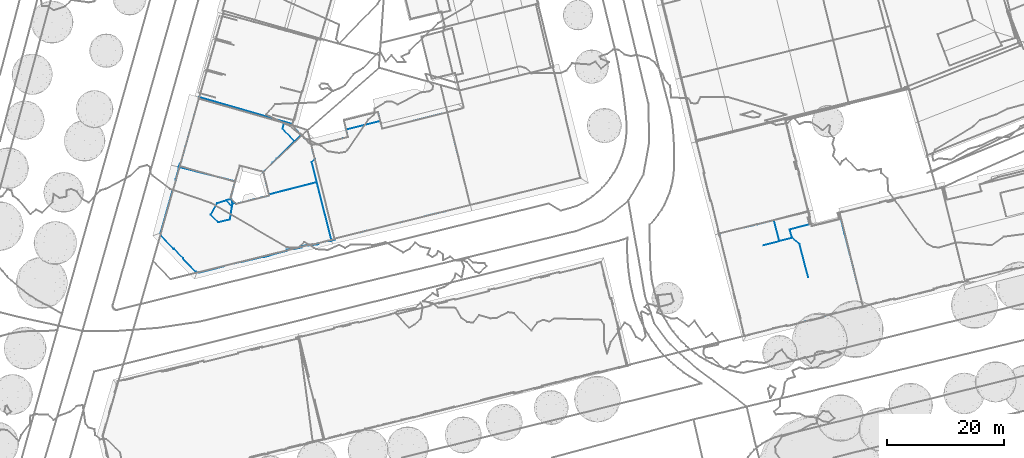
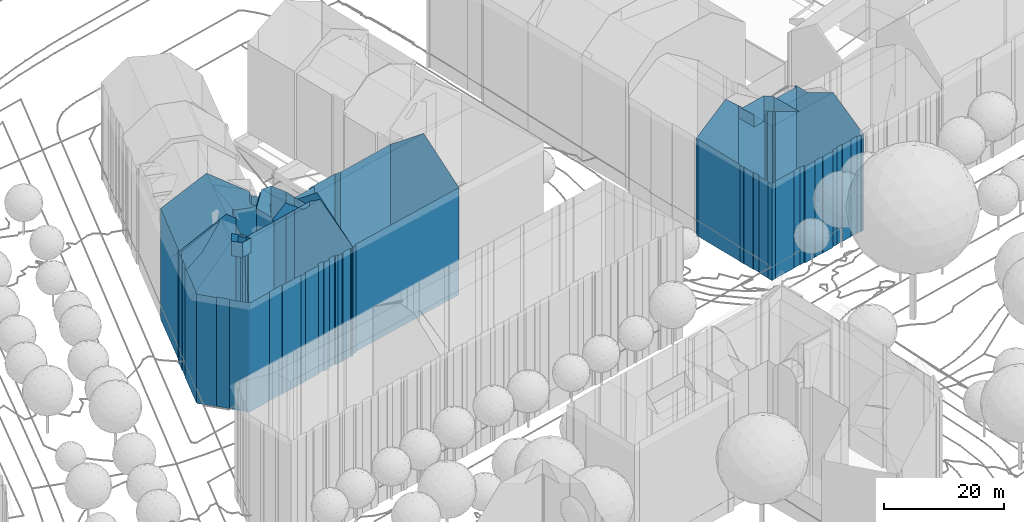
# Not in any storey, part 33 of 477: 4 walls.
"""IFC4 building model written with IfcOpenShell, lengths in metres."""

from ifc_helpers import new_model, si_unit, frame, origin_with_axes, place, context, subcontext, project, spatial, polygons, element, save


model = new_model("IFC4")

# Units and contexts
model_context = context("Model", 3, precision=1e-05, world=origin_with_axes())
body_context = subcontext(model_context, "Body", "Model", "MODEL_VIEW")
ifc_project = project(units=[si_unit("AREAUNIT", "SQUARE_METRE"), si_unit("LENGTHUNIT", "METRE")], contexts=[model_context])

# Sites, building
site_1_placement = place(None, origin_with_axes())
site_1 = spatial("IfcSite", under=ifc_project, at=site_1_placement, Name="Topoexport Site")
site_2_placement = place(site_1_placement, origin_with_axes())
site_2 = spatial("IfcSite", under=site_1, at=site_2_placement, Name="TPX_BUILDINGS")
building_1_placement = place(site_2_placement, frame((153.8417320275, 371.7576160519, 556.9797), z_axis=(0.0, 0.0, 1.0), x_axis=(1.0, 0.0, 0.0)))
building_1 = spatial("IfcBuilding", under=site_2, at=building_1_placement, Name="Building 166", CompositionType="ELEMENT")

# Wall
wall_1_placement = place(None, frame((153.8417320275, 371.7576160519, 556.9797), z_axis=(0.0, 0.0, 1.0), x_axis=(1.0, 0.0, 0.0)))
element("IfcWall", 1, at=wall_1_placement, inside=building_1, Name="Wall 0", context=body_context, shape_type="Tessellation", body=[
    polygons([(15.6259999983, 2.8643000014, -19.1582), (15.2799999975, 2.753899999, -19.1582), (15.6259999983, 2.8643000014, -0.527), (15.2799999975, 2.753899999, -0.527), (15.5419999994, 3.3594000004, -19.1582), (15.5040000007, 3.3447000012, -19.1582), (15.5419999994, 3.3594000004, -0.523), (15.5659999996, 1.6026000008, -0.536), (9.4459999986, 2.3213, -19.1582), (15.4069999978, 3.8672000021, -19.1582), (9.4459999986, 2.3213, -0.536), (12.5519999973, -0.7265000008, 1.6688), (13.8509999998, -1.8016999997, 1.6688), (12.5519999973, -0.7265000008, 4.7045), (15.3509999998, -7.5819999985, 4.7085), (13.8509999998, -1.8016999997, 4.7085), (15.743999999, -14.9169999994, -0.1331), (15.6919999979, -14.8691000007, -19.7052), (15.6919999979, -14.8691000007, -0.0931), (15.743999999, -14.9169999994, -9.9281), (15.743999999, -14.9169999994, -19.7052), (13.8819999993, -15.3779000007, -0.1181), (13.8819999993, -15.3779000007, -19.7052), (13.8709999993, -15.3808000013, -14.8047), (13.8709999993, -15.3808000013, -9.9111), (13.9019999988, -15.3125, -0.0791), (13.9019999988, -15.3125, -19.7052), (11.6699999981, -15.9179999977, -9.9621), (11.629999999, -15.7588, -6.4115), (11.629999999, -15.7588, 0.0029), (11.629999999, -15.7588, -14.7787), (11.629999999, -15.7588, -19.7052), (11.6699999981, -15.9179999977, -19.7052), (3.5769999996, 0.8720999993, -19.7052), (6.5949999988, 1.5811000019, -19.7052), (3.5769999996, 0.8720999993, 2.5607), (0.0390000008, -0.1591999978, -0.002), (0.0979999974, -0.4052999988, -0.005), (0.0979999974, -0.4052999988, -19.7052), (0.0, 0.0, 0.0), (0.0, 0.0001000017, -19.7052), (0.1779999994, -0.3896000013, -19.7052), (0.1779999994, -0.3896000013, 0.0509), (0.7769999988, -2.8310000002, 0.0239), (2.574000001, -10.1543000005, -0.0571), (2.574000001, -10.1543000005, -19.7052), (2.5119999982, -10.1688999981, -0.1011), (2.5119999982, -10.1688000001, -19.7052), (2.7280000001, -11.0429999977, -19.7052), (2.7280000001, -11.0428999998, -0.1101), (2.7879999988, -11.0282999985, -19.7052), (2.7879999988, -11.0282999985, -0.0671), (3.318, -13.1854999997, -19.7052), (3.318, -13.1854999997, -0.0901), (3.4010000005, -13.1611000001, -19.7052), (3.7430000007, -14.5077999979, -19.7052), (3.4010000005, -13.1611000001, -0.0301), (3.7430000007, -14.5077999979, -0.0371), (3.6499999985, -14.5399999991, -0.1051), (4.186999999, -16.7285000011, -19.7052), (4.186999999, -16.7285000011, -0.1301), (3.6499999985, -14.5399999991, -19.7052), (4.1380000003, -16.7412, -19.7052), (4.1380000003, -16.7412, -0.1651), (8.9199999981, 2.1757999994, -19.7052), (9.4499999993, 2.3037, -0.536), (8.9199999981, 2.1757999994, 2.4957), (9.4499999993, 2.3037, 1.9938), (9.4499999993, 2.3037, -19.7052), (9.4499999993, 2.3037, -19.1582), (6.5949999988, 1.5811000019, 4.7085), (9.3559999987, -16.3222999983, -19.7052), (5.2039999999, -17.3515000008, 0.0759), (9.3559999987, -16.3222000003, 0.0529), (5.2039999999, -17.3515000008, -19.7052), (9.3399999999, -16.2617000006, 0.0939), (9.3399999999, -16.2617000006, -19.7052), (10.693, -15.9287, 0.0849), (10.693, -15.9287, -19.7052), (10.7119999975, -15.9862999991, -9.8501), (10.7119999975, -15.9862999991, -19.7052), (5.2159999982, -17.4012999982, -14.7937), (5.2159999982, -17.4012999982, 0.0419), (5.2159999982, -17.4013999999, -19.7052), (20.5949999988, 2.7637000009, -19.7052), (20.5639999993, 2.8936000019, 1.6688), (20.5949999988, 2.7637000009, 1.6688), (20.6499999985, 2.7851999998, -19.7052), (20.6499999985, 2.7851999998, 1.6688), (20.7109999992, 2.5362000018, -19.7052), (20.7109999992, 2.5362000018, 1.6688), (16.0089999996, 1.3584000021, -19.7052), (16.0089999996, 1.3584000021, 1.6688), (15.9199999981, 1.6953000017, -19.7052), (15.9199999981, 1.6953000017, 1.6688), (20.5639999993, 2.8936000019, -19.7052), (20.8440000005, 2.9658000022, 1.6688), (23.0189999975, -5.5918000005, -19.7052), (23.1359999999, -6.0790999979, 4.3735), (23.0189999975, -5.5918000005, 4.6685), (24.3330000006, -12.6229999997, -19.7052), (24.3640000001, -12.7333999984, -0.1531), (24.3640000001, -12.7333999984, -19.7052), (24.3330000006, -12.6229999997, -14.7977), (23.1359999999, -6.0790999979, -19.7052), (24.7939999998, -12.6220999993, -19.7052), (24.7939999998, -12.6220999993, -0.1531), (18.9069999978, -13.9686999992, -0.0071), (18.8829999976, -13.8847000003, 0.0509), (18.9068999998, -13.9686999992, -19.7052), (18.8829999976, -13.8847000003, -19.7052), (20.1400000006, -13.5771000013, -19.7052), (20.1400000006, -13.5771000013, 0.0329), (20.1659999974, -13.6572000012, -0.0231), (20.1659999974, -13.6572000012, -19.7052), (22.0969999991, -13.1766999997, -19.7052), (22.0969999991, -13.1766999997, -0.0481), (22.0779999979, -13.1024999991, 0.0029), (22.0779999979, -13.1024999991, -19.7052), (23.436999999, -12.7606999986, -19.7052), (23.436999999, -12.7606999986, -0.0111), (23.4609999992, -12.8388999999, -4.9886), (23.4609999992, -12.8388999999, -19.7052), (17.9609999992, -14.3662, -6.2805), (17.9609999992, -14.3662, -0.1291), (17.9230000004, -14.2128999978, -19.7052), (17.9230000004, -14.2128999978, -0.0221), (17.9609999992, -14.3662, -19.7052), (17.9609999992, -14.3662, -14.8917), (10.381000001, -1.2910000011, 1.9938), (10.381000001, -1.2910000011, -19.7052), (12.5519999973, -0.7265000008, -0.536), (12.1769999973, 0.7177999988, 1.6688), (12.5519999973, -0.7265000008, -19.7052), (12.1769999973, 0.7177999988, -19.1582), (12.5519999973, -0.7265000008, -19.1582), (10.3819999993, -1.2910000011, -19.1582), (15.4349999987, 3.7608000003, -0.521), (15.4069999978, 3.8672000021, -0.521), (15.4349999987, 3.7608000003, -19.1582), (15.5020000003, 3.509800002, -0.522), (10.381000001, -1.2910000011, 4.6965), (7.5309999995, -2.0311999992, 4.7085), (10.3819999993, -1.2910000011, -0.536), (14.9120000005, -15.061499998, -0.0901), (14.9120000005, -15.061499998, -19.7052), (17.7139999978, -14.4266999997, -0.1461), (17.7139999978, -14.4266999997, -19.7052), (16.873999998, -14.6356999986, -19.7052), (16.873999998, -14.6356999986, -0.1331), (15.9250000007, -14.8720999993, -0.1331), (13.8709999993, -15.3808000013, -5.0146), (13.4289999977, -15.4891999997, -0.1141), (12.430999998, -15.7313999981, -0.1051), (12.430999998, -15.7313999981, -19.7052), (13.4289999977, -15.4891999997, -19.7052), (11.6699999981, -15.9179999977, -0.1081), (4.3519999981, -17.615199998, -19.7052), (4.3519999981, -17.615199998, -0.1741), (4.6579999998, -17.5390000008, 0.0459), (4.6579999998, -17.5390000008, -19.7052), (10.9639999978, -15.9237999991, -19.7052), (11.5789999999, -15.7714999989, 0.0029), (10.9639999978, -15.9237999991, 0.0429), (10.7119999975, -15.9862999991, 0.0449), (21.5390000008, 0.1933999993, 1.6688), (20.8440000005, 2.9658000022, -19.7052), (21.5390000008, 0.1933999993, -19.7052), (22.2689999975, -2.6387000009, -19.7052), (22.2689999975, -2.6387000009, 3.1566), (24.3330000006, -12.6229999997, -4.9836), (24.1449999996, -12.6699000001, -19.7052), (24.3330000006, -12.6229999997, -0.0761), (24.1449999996, -12.6699000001, -0.0751), (23.4609999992, -12.8387999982, -0.0661), (18.2859999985, -14.1229999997, 0.0009), (15.5659999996, 1.6015999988, 1.6688), (12.1769999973, 0.7177999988, -0.536), (15.5659999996, 1.6015999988, -19.7052), (12.1769999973, 0.7177999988, -19.7052), (15.5659999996, 1.6026000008, -19.1582), (15.5040000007, 3.3447000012, -0.523)], [[[3, 2, 1]], [[3, 4, 2]], [[7, 6, 5]], [[4, 8, 2]], [[11, 10, 9]], [[14, 13, 12]], [[16, 15, 13]], [[19, 18, 17]], [[20, 17, 18]], [[20, 18, 21]], [[24, 23, 22]], [[22, 25, 24]], [[23, 27, 26]], [[30, 29, 28]], [[31, 28, 29]], [[31, 32, 28]], [[28, 32, 33]], [[36, 35, 34]], [[39, 38, 37]], [[41, 37, 40]], [[39, 37, 41]], [[43, 39, 42]], [[42, 45, 44]], [[46, 45, 42]], [[48, 47, 45]], [[45, 46, 48]], [[50, 48, 49]], [[50, 49, 51]], [[53, 52, 51]], [[53, 54, 52]], [[54, 53, 55]], [[58, 57, 56]], [[57, 55, 56]], [[58, 56, 59]], [[61, 59, 60]], [[59, 62, 60]], [[64, 61, 63]], [[41, 40, 36]], [[34, 41, 36]], [[67, 66, 65]], [[66, 67, 68]], [[70, 69, 65]], [[71, 67, 35]], [[74, 73, 72]], [[73, 75, 72]], [[72, 77, 76]], [[76, 77, 78]], [[78, 77, 79]], [[81, 80, 79]], [[78, 79, 80]], [[75, 83, 82]], [[75, 73, 83]], [[82, 84, 75]], [[87, 86, 85]], [[89, 87, 88]], [[91, 89, 90]], [[93, 91, 92]], [[95, 93, 94]], [[86, 97, 96]], [[100, 99, 98]], [[103, 102, 101]], [[102, 104, 101]], [[99, 106, 105]], [[107, 106, 99]], [[110, 109, 108]], [[109, 110, 111]], [[113, 111, 112]], [[112, 115, 114]], [[117, 115, 116]], [[119, 118, 116]], [[118, 117, 116]], [[121, 119, 120]], [[121, 118, 119]], [[123, 122, 120]], [[121, 120, 122]], [[126, 125, 124]], [[127, 125, 126]], [[129, 128, 126]], [[66, 9, 70]], [[68, 130, 66]], [[70, 131, 69]], [[12, 133, 132]], [[136, 135, 134]], [[137, 134, 131]], [[139, 138, 10]], [[138, 140, 10]], [[140, 138, 141]], [[140, 141, 7]], [[7, 5, 140]], [[143, 142, 130]], [[130, 142, 14]], [[12, 144, 130]], [[132, 144, 12]], [[12, 130, 14]], [[146, 18, 145]], [[18, 19, 145]], [[145, 26, 27]], [[146, 145, 27]], [[124, 125, 147]], [[128, 129, 148]], [[129, 149, 148]], [[124, 149, 129]], [[150, 124, 147]], [[150, 151, 20]], [[17, 20, 151]], [[21, 149, 20]], [[124, 20, 149]], [[20, 124, 150]], [[22, 153, 152]], [[25, 152, 154]], [[25, 155, 24]], [[23, 24, 156]], [[153, 154, 152]], [[154, 157, 28]], [[24, 155, 156]], [[28, 33, 155]], [[28, 155, 25]], [[25, 154, 28]], [[159, 63, 158]], [[63, 159, 64]], [[160, 159, 83]], [[82, 83, 159]], [[161, 84, 82]], [[158, 161, 82]], [[82, 159, 158]], [[162, 31, 29]], [[162, 32, 31]], [[29, 30, 163]], [[29, 164, 80]], [[80, 164, 165]], [[81, 162, 80]], [[162, 29, 80]], [[29, 163, 164]], [[168, 167, 166]], [[166, 169, 168]], [[170, 100, 98]], [[98, 169, 170]], [[170, 169, 166]], [[123, 104, 171]], [[101, 104, 172]], [[174, 171, 173]], [[174, 175, 122]], [[122, 123, 171]], [[104, 123, 172]], [[171, 174, 122]], [[110, 108, 176]], [[126, 110, 127]], [[110, 176, 127]], [[178, 133, 177]], [[180, 135, 179]], [[178, 177, 8]], [[181, 8, 95]], [[95, 8, 177]], [[181, 94, 179]], [[181, 95, 94]], [[182, 1, 6]], [[1, 182, 3]], [[182, 6, 7]], [[2, 8, 181]], [[139, 10, 11]], [[16, 13, 14]], [[25, 22, 152]], [[22, 23, 26]], [[30, 28, 157]], [[71, 35, 36]], [[38, 39, 43]], [[42, 44, 43]], [[47, 48, 50]], [[52, 50, 51]], [[57, 54, 55]], [[62, 59, 56]], [[61, 60, 63]], [[66, 70, 65]], [[67, 65, 35]], [[74, 72, 76]], [[165, 78, 80]], [[86, 96, 85]], [[87, 85, 88]], [[89, 88, 90]], [[91, 90, 92]], [[93, 92, 94]], [[97, 167, 96]], [[99, 105, 98]], [[102, 173, 171]], [[171, 104, 102]], [[106, 107, 103]], [[102, 103, 107]], [[109, 111, 113]], [[113, 112, 114]], [[114, 115, 117]], [[121, 122, 175]], [[124, 129, 126]], [[11, 9, 66]], [[130, 144, 66]], [[137, 131, 70]], [[133, 178, 132]], [[135, 180, 134]], [[136, 134, 137]], [[167, 97, 166]], [[135, 181, 179]]]),
])

# Building
building_2_placement = place(site_2_placement, frame((57.9967320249, 371.6443160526, 536.9447), z_axis=(0.0, 0.0, 1.0), x_axis=(1.0, 0.0, 0.0)))
building_2 = spatial("IfcBuilding", under=site_2, at=building_2_placement, Name="Building 212", CompositionType="ELEMENT")

# Wall
wall_2_placement = place(None, frame((57.9967320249, 371.6443160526, 536.9447), z_axis=(0.0, 0.0, 1.0), x_axis=(1.0, 0.0, 0.0)))
element("IfcWall", 2, at=wall_2_placement, inside=building_2, Name="Wall 0", context=body_context, shape_type="Tessellation", body=[
    polygons([(12.2110000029, 5.9814999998, -0.0001), (12.3510000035, 5.2305000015, 26.0615), (12.2110000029, 5.9814999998, 26.3844), (12.3510000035, 5.2305000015, 26.3844), (12.2690000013, 4.7159000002, 24.7896), (11.3289999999, 5.8291000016, 26.3844), (12.2690000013, 4.7159000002, 26.3864), (24.1640000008, 17.1083999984, 18.8751), (24.2860000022, 16.9844000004, 25.1216), (24.1640000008, 17.1083999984, 25.1665), (24.2860000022, 16.9844000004, 18.8302), (24.1640000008, 17.1083999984, 0.0), (24.2860000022, 16.9844000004, 6.2474), (24.2860000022, 16.9844000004, 0.0), (26.5090000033, 12.8779999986, -0.0001), (25.9670000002, 12.4228999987, -0.0001), (26.5090000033, 12.8779999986, 24.4796), (17.6710000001, 10.6992999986, -0.0001), (17.6480000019, 10.7050999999, 26.8104), (17.6710000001, 10.6992999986, 13.4117), (17.6480000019, 10.7050999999, -0.0001), (17.6480000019, 10.7050999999, 6.6933), (28.8460000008, -1.1064000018, 21.9928), (28.9420000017, -1.2010999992, -0.0001), (28.8460000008, -1.1064000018, 10.9959), (29.0520000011, -1.2138000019, -0.0001), (29.0520000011, -1.2138000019, 21.8768), (28.9420000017, -1.2010999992, 21.9058), (29.2050000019, -1.1737999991, -0.0001), (29.193, -1.1240000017, 21.9158), (29.193, -1.1240000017, -0.0001), (29.2050000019, -1.1737999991, 21.8778), (29.2978000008, -1.0976999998, 21.9158), (29.3718000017, -1.0800999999, 10.9579), (29.3720000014, -1.0800000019, -0.0001), (6.4150000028, -6.6141999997, -0.0001), (6.2920000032, -6.5879000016, -0.0001), (6.4150000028, -6.6141999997, 22.1078), (18.7190000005, -3.6787, 21.9818), (17.7860000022, -3.9061999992, -0.0001), (17.7860000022, -3.9061999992, 21.9878), (18.700000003, -3.6004999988, -0.0001), (18.700000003, -3.6004999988, 22.0428), (18.7190000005, -3.6787, -0.0001), (21.6910000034, -2.8680999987, 22.0248), (21.6910000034, -2.8680999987, -0.0001), (21.6490000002, -2.6766999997, -0.0001), (22.9230000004, -2.371100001, -0.0001), (21.6490000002, -2.6766999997, 22.1728), (22.9230000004, -2.371100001, 22.1608), (22.9730000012, -2.5555999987, 22.0168), (22.9730000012, -2.5555999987, -0.0001), (24.1920000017, -2.2578000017, 22.0098), (24.1920000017, -2.2578000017, -0.0001), (24.1520000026, -2.0791000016, -0.0001), (24.1520000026, -2.0791000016, 22.1478), (25.4200000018, -1.7694999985, -0.0001), (25.4200000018, -1.7694999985, 22.1398), (25.4640000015, -1.9453000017, 22.0028), (25.4640000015, -1.9453000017, -0.0001), (26.0200000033, -1.8095000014, -0.0001), (26.0200000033, -1.8095000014, 21.9998), (26.0430000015, -1.9013000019, 21.9288), (26.0430000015, -1.9013000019, -0.0001), (26.876000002, -1.6953000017, 21.9258), (26.876000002, -1.6953000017, -0.0001), (26.8880000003, -1.7430999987, -0.0001), (26.8880000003, -1.7430999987, 21.8888), (27.068, -1.6904000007, 21.8938), (27.068, -1.6904000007, -0.0001), (27.1150000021, -1.6435000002, 21.9198), (27.1510000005, -1.5243999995, 21.9998), (27.1510000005, -1.5243999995, 9.625), (27.1510000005, -1.5243999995, -0.0001), (27.1150000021, -1.6435000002, -0.0001), (6.4491000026, -6.6229999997, -0.0001), (6.5460000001, -6.6103000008, -0.0001), (6.449000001, -6.6229999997, 22.0958), (6.5460000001, -6.6103000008, 22.0868), (7.6240000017, -6.3398000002, 22.0858), (10.6600000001, -5.5742000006, -0.0001), (10.6600000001, -5.5742000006, 22.0838), (10.7359000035, -5.5419999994, 22.0938), (10.7360000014, -5.5419000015, -0.0001), (10.8060000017, -5.4765000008, -0.0001), (10.8060000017, -5.4765000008, 22.1288), (13.6530000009, -4.7685000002, 22.1208), (13.6530000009, -4.7685000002, -0.0001), (13.7200000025, -4.7928999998, 22.0908), (13.7200000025, -4.7928999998, -0.0001), (13.8270000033, -4.7928999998, 22.0708), (13.8270000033, -4.7928999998, -0.0001), (17.7670000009, -3.8291000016, 22.0478), (17.7670000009, -3.8291000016, -0.0001), (12.9810000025, 5.2120000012, 26.2124), (12.8380000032, 5.3555000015, 26.0855), (12.9810000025, 5.2120000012, -0.0001), (12.3510000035, 5.2305000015, -0.0001), (12.8380000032, 5.3555000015, -0.0001), (12.819000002, 9.0615999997, 0.0), (12.7980000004, 8.9912, 0.0), (12.819000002, 9.0615999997, 13.0677), (12.8191, 9.0615000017, 26.1405), (12.7971000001, 8.9882999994, 26.1455), (6.131000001, -6.4824000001, 5.5344), (6.1330000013, -6.4833999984, 22.1528), (6.188000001, -6.5293000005, -0.0001), (6.0970000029, -6.4541000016, 22.1508), (6.0970000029, -6.4541000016, -0.0001), (2.2930000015, -2.5439000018, -0.0001), (2.2930000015, -2.5439000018, 22.1358), (2.3590000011, -2.4803999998, -0.0001), (3.9330000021, -4.1240000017, 22.1898), (3.9330000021, -4.1240000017, -0.0001), (3.8720000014, -4.191399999, -0.0001), (3.8720000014, -4.191399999, 22.1308), (4.5670000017, -4.8984000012, 8.2921), (5.3060000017, -5.6484000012, 22.1428), (5.5410000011, -5.8885999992, 8.3011), (4.9850000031, -5.3222000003, 5.5274), (4.4280000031, -4.7578000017, 22.1358), (0.0100000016, 0.1699999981, 22.2938), (0.0, 0.0, 22.2128), (0.0, 0.0, 0.0), (0.0101000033, 0.1699999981, 16.7204), (0.0101000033, 0.1699999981, 11.1469), (0.0100000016, 0.1689999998, 0.0), (0.0100000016, 0.1699999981, 5.5734), (0.0540000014, -0.1523000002, 22.1688), (0.0540000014, -0.1523000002, 0.0), (0.1380000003, -0.2675000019, 22.1558), (0.1380000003, -0.2675000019, 0.0), (1.2150000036, -1.4043000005, 22.1458), (3.1611000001, 11.5390999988, 22.5048), (3.1020000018, 11.309700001, 0.0), (3.1611000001, 11.5390999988, 16.8784), (3.1610000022, 11.5390999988, 0.0), (3.1570000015, 11.2930000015, 22.5468), (3.1570000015, 11.2930000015, 11.2729), (3.1020000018, 11.3095999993, 22.5058), (3.1570000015, 11.2930000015, 5.6364), (3.1570000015, 11.2930999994, 0.0), (2.2030000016, 7.6963, 22.5268), (2.1290000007, 7.6152999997, 22.4898), (2.1290000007, 7.6152999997, 0.0), (2.2030000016, 7.6963, 0.0), (2.0930000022, 7.5390999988, 22.4778), (2.0930000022, 7.5392000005, 16.8553), (2.6432000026, 9.4814999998, 22.5148), (2.637000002, 9.3847999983, 0.0), (2.6431000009, 9.4814999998, 16.8833), (2.6431000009, 9.4814999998, 11.2509), (2.6590000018, 9.3027999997, 0.0), (2.637000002, 9.3847999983, 22.5278), (12.1180000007, 6.0742999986, 26.1115), (12.1180000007, 6.0742999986, 26.3844), (11.7240000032, 5.9521999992, 26.3844), (9.9340000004, 2.0507999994, 24.7896), (11.9160000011, 2.5518000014, 27.7683), (9.9340000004, 2.0507999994, 27.7683), (11.9160000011, 2.5518000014, 24.7896), (9.7270000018, 5.3339999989, 24.7896), (8.6410000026, 3.3907000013, 27.7683), (9.7270000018, 5.3339999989, 27.7683), (8.6410000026, 3.3907000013, 24.7896), (12.007000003, 6.1856000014, -0.0001), (12.007000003, 6.1856000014, 26.2164), (24.9530000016, 16.2842000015, 24.8816), (25.6150000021, 15.5909000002, 24.6396), (25.9170000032, 15.2745000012, 24.5296), (25.9170000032, 15.2745000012, -0.0001), (25.6150000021, 15.5909000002, -0.0001), (24.9530000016, 16.2842000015, -0.0001), (26.1160000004, 14.4688000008, -0.0001), (26.1160000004, 14.4688000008, 24.5856), (23.007000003, 15.9726999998, 0.0), (17.6480000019, 10.7050999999, 13.3987), (19.9760000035, 12.9941999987, -0.0001), (19.9760000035, 12.9941999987, 28.5112), (23.007000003, 15.9726999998, 26.0905), (26.8340000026, 8.9472999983, -0.0001), (25.9670000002, 12.4228999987, 25.1105), (26.8340000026, 8.9472999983, 25.1105), (27.2670000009, 7.2217000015, 27.2483), (26.8340000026, 8.9472999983, 26.0614), (27.2670000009, 7.2217000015, -0.0001), (28.006000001, -1.3134000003, 21.9958), (28.006000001, -1.3134000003, -0.0001), (28.8460000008, -1.1064000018, -0.0001), (29.3720000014, -1.0800000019, 21.9158), (27.4590000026, 6.4677999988, 27.7683), (27.4590000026, 6.4677999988, -0.0001), (6.188000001, -6.5293000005, 22.1578), (6.2920000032, -6.5879000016, 22.1498), (6.2540000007, -6.566399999, 22.1728), (12.6400000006, 8.4307000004, 26.1735), (11.1620000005, 9.4853999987, 27.2084), (10.2950000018, 9.7071000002, 27.7683), (10.3950000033, 9.6816999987, 0.0), (2.0930000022, 7.5390999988, 0.0), (0.0340000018, 0.253899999, 22.3428), (2.9260000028, 10.4776000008, 0.0), (2.643000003, 9.4814999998, 0.0), (2.9260000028, 10.4776000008, 22.5348), (21.387000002, 7.5507999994, 28.5112), (24.3900000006, 8.3213, 26.0615), (18.6359999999, 6.8447999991, 26.0615), (18.6359999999, 6.8447999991, 26.7254), (24.7370000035, 8.4101999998, 25.7785), (25.444000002, 8.5918000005, 25.1105), (11.3289999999, 5.8291000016, 26.6584), (11.3289999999, 5.8291000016, 24.7896), (18.689000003, 6.6347999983, -0.0001), (18.6760000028, 6.6845999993, 26.1714), (18.689000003, 6.6347999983, 26.2064), (18.6770000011, 6.6827000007, -0.0001), (17.9580000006, 9.5546999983, -0.0001), (17.9580000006, 9.5546999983, 26.8174), (17.6710000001, 10.6992999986, 26.8234), (13.8440000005, 5.4277999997, -0.0001), (16.1700000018, 6.0069000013, 26.2724), (13.8440000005, 5.4277999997, 26.2604), (16.1700000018, 6.0069000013, -0.0001), (17.5560000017, 6.3526000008, 26.2044), (17.5560000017, 6.3526000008, -0.0001), (2.3590000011, -2.4803999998, 22.1958), (2.6590000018, 9.3027999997, 22.5578)], [[[3, 2, 1]], [[4, 2, 3]], [[7, 6, 5]], [[10, 9, 8]], [[13, 12, 11]], [[12, 13, 14]], [[17, 16, 15]], [[20, 19, 18]], [[22, 21, 18]], [[25, 24, 23]], [[27, 24, 26]], [[24, 27, 28]], [[29, 27, 26]], [[31, 30, 29]], [[30, 32, 29]], [[35, 34, 33]], [[30, 31, 33]], [[33, 31, 35]], [[38, 37, 36]], [[41, 40, 39]], [[43, 39, 42]], [[42, 39, 44]], [[42, 46, 45]], [[47, 45, 46]], [[50, 49, 48]], [[49, 47, 48]], [[48, 52, 51]], [[54, 53, 51]], [[51, 52, 54]], [[56, 54, 55]], [[58, 55, 57]], [[58, 56, 55]], [[60, 59, 58]], [[58, 57, 60]], [[61, 59, 60]], [[61, 63, 62]], [[66, 65, 64]], [[67, 65, 66]], [[70, 69, 68]], [[68, 67, 70]], [[71, 69, 70]], [[71, 73, 72]], [[71, 75, 74]], [[76, 38, 36]], [[79, 78, 77]], [[77, 78, 76]], [[81, 80, 77]], [[81, 82, 80]], [[80, 79, 77]], [[82, 81, 83]], [[84, 83, 81]], [[86, 83, 85]], [[83, 84, 85]], [[88, 87, 85]], [[87, 88, 89]], [[89, 88, 90]], [[92, 91, 90]], [[91, 89, 90]], [[94, 93, 92]], [[93, 94, 40]], [[97, 96, 95]], [[2, 99, 98]], [[99, 2, 96]], [[102, 101, 100]], [[104, 101, 103]], [[107, 106, 105]], [[106, 108, 105]], [[108, 109, 105]], [[105, 109, 107]], [[112, 111, 110]], [[114, 113, 112]], [[116, 114, 115]], [[116, 113, 114]], [[119, 118, 117]], [[119, 117, 120]], [[119, 108, 118]], [[108, 119, 109]], [[109, 119, 120]], [[121, 116, 117]], [[120, 117, 115]], [[116, 115, 117]], [[120, 115, 109]], [[124, 123, 122]], [[126, 124, 125]], [[128, 127, 124]], [[130, 129, 124]], [[123, 124, 129]], [[132, 131, 129]], [[129, 130, 132]], [[133, 132, 111]], [[110, 111, 132]], [[132, 133, 131]], [[136, 135, 134]], [[136, 137, 135]], [[140, 139, 138]], [[139, 140, 141]], [[142, 141, 140]], [[145, 144, 143]], [[143, 146, 145]], [[147, 144, 145]], [[145, 148, 147]], [[151, 150, 149]], [[152, 150, 151]], [[154, 150, 153]], [[146, 143, 153]], [[157, 156, 155]], [[4, 7, 2]], [[160, 159, 158]], [[159, 7, 161]], [[164, 163, 162]], [[163, 160, 165]], [[166, 155, 1]], [[155, 166, 167]], [[156, 3, 155]], [[1, 155, 3]], [[168, 11, 9]], [[11, 168, 169]], [[11, 169, 170]], [[170, 13, 11]], [[171, 13, 170]], [[13, 171, 172]], [[13, 173, 14]], [[173, 13, 172]], [[171, 170, 174]], [[174, 170, 15]], [[15, 175, 17]], [[175, 15, 170]], [[22, 177, 176]], [[178, 21, 22]], [[12, 176, 177]], [[178, 22, 176]], [[8, 19, 179]], [[8, 179, 180]], [[10, 8, 180]], [[12, 19, 8]], [[12, 177, 19]], [[16, 182, 181]], [[185, 184, 183]], [[183, 186, 181]], [[186, 183, 184]], [[187, 25, 23]], [[188, 25, 73]], [[188, 189, 25]], [[187, 72, 73]], [[74, 188, 73]], [[25, 187, 73]], [[191, 190, 184]], [[184, 190, 34]], [[34, 35, 192]], [[192, 186, 34]], [[34, 186, 184]], [[37, 194, 193]], [[37, 193, 107]], [[194, 195, 193]], [[101, 104, 166]], [[104, 167, 166]], [[167, 104, 196]], [[197, 103, 136]], [[198, 197, 136]], [[198, 136, 134]], [[136, 103, 137]], [[103, 102, 137]], [[102, 100, 199]], [[137, 102, 199]], [[127, 128, 200]], [[128, 126, 200]], [[125, 122, 201]], [[148, 201, 147]], [[125, 148, 200]], [[148, 125, 201]], [[125, 200, 126]], [[141, 202, 152]], [[151, 139, 152]], [[202, 203, 152]], [[151, 149, 204]], [[204, 138, 139]], [[141, 142, 202]], [[152, 139, 141]], [[151, 204, 139]], [[207, 206, 205]], [[208, 207, 205]], [[209, 206, 185]], [[210, 185, 183]], [[185, 210, 209]], [[6, 157, 211]], [[212, 6, 162]], [[164, 162, 6]], [[164, 6, 211]], [[215, 214, 213]], [[213, 214, 216]], [[217, 216, 207]], [[214, 207, 216]], [[207, 208, 218]], [[218, 219, 20]], [[20, 18, 217]], [[207, 20, 217]], [[20, 207, 218]], [[95, 220, 97]], [[223, 222, 221]], [[224, 215, 213]], [[225, 221, 224]], [[223, 220, 222]], [[225, 223, 221]], [[224, 213, 225]], [[222, 220, 95]], [[2, 98, 1]], [[6, 212, 5]], [[12, 8, 9]], [[12, 9, 11]], [[182, 16, 17]], [[19, 177, 18]], [[20, 219, 19]], [[177, 22, 18]], [[24, 28, 23]], [[25, 189, 24]], [[29, 32, 27]], [[34, 190, 33]], [[194, 37, 38]], [[44, 39, 40]], [[43, 42, 45]], [[47, 49, 45]], [[50, 48, 51]], [[53, 54, 56]], [[59, 61, 62]], [[64, 63, 61]], [[63, 64, 65]], [[68, 65, 67]], [[75, 71, 70]], [[71, 74, 73]], [[76, 78, 38]], [[86, 85, 87]], [[91, 92, 93]], [[93, 40, 41]], [[99, 96, 97]], [[103, 101, 102]], [[106, 107, 193]], [[226, 111, 112]], [[226, 112, 113]], [[118, 121, 117]], [[124, 122, 125]], [[126, 128, 124]], [[134, 135, 140]], [[140, 135, 142]], [[200, 148, 145]], [[150, 154, 149]], [[152, 203, 150]], [[227, 154, 153]], [[227, 153, 143]], [[159, 161, 158]], [[7, 5, 161]], [[163, 165, 162]], [[160, 158, 165]], [[182, 183, 181]]]),
])

# Building
building_3_placement = place(site_2_placement, frame((83.9137320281, 386.9188160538, 537.2696), z_axis=(0.0, 0.0, 1.0), x_axis=(1.0, 0.0, 0.0)))
building_3 = spatial("IfcBuilding", under=site_2, at=building_3_placement, Name="Building 214", CompositionType="ELEMENT")

# Wall
wall_3_placement = place(None, frame((83.9137320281, 386.9188160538, 537.2696), z_axis=(0.0, 0.0, 1.0), x_axis=(1.0, 0.0, 0.0)))
element("IfcWall", 3, at=wall_3_placement, inside=building_3, Name="Wall 0", context=body_context, shape_type="Tessellation", body=[
    polygons([(5.5869999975, 4.2850999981, 0.7441), (11.4419999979, 5.7196999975, 6.0286), (5.5869999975, 4.2850999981, 6.0286), (3.4549999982, -16.3545000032, 5.4035), (3.4549999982, -16.3545000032, 10.809), (4.1049999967, -16.193400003, 0.0), (3.4549999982, -16.3545000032, 21.6169), (4.1049999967, -16.193400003, 21.6159), (3.4549999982, -16.3545000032, 0.0), (4.0590000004, -16.004900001, 21.7699), (4.0590000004, -16.004900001, 16.3274), (4.0590000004, -16.004900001, 5.4425), (4.0590000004, -16.004900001, 0.0), (0.9169999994, -6.327200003, 0.0), (0.049999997, -2.8516000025, 24.2307), (0.9169999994, -6.327200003, 27.0304), (0.049999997, -2.8516000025, 0.0), (0.5920000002, -2.3965000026, 23.9867), (0.5920000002, -2.3965000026, 17.9283), (0.5920000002, -2.3965000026, 11.8709), (0.5920000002, -2.3965000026, 0.0), (0.5920000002, -2.3965000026, 5.8135), (0.9709999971, 0.2274999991, 13.7457), (1.0169999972, 0.0975999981, 22.1659), (0.9709999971, 0.2274999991, 22.0579), (0.9709999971, 0.2274999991, 0.0), (1.0169999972, 0.0975999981, 0.0), (17.748999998, 4.2577999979, 22.201), (14.9549999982, 3.5537, 22.2049), (19.754999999, 4.7635999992, 0.0001), (12.1619999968, 2.8486000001, 11.1039), (12.1619999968, 2.8486000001, 0.0), (23.3349999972, 5.6668999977, 22.194), (23.3349999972, 5.6668999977, 11.0901), (23.3349999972, 5.6668999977, 5.5376), (23.3349999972, 5.6668999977, 0.0001), (5.9689999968, 2.7069999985, 0.0), (11.8289999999, 4.1747999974, 0.0001), (5.9689999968, 2.7069999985, 0.7439), (5.9689999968, 2.7069999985, 6.0284), (11.8289999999, 4.1747999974, 21.1391), (5.9689999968, 2.7069999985, 21.139), (27.2709999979, -10.2675999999, 21.7039), (27.2709999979, -10.2675999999, 0.0), (6.4389999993, -15.4170000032, 0.0), (6.4389999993, -15.4170000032, 21.7629), (1.5409999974, -8.8067000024, 27.8053), (1.3499999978, -8.0527999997, 28.4233), (1.3499999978, -8.0527999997, 0.0), (1.5409999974, -8.8067000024, 0.0), (0.2199999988, -0.8887000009, 22.7658), (0.0, 0.0, 22.0549), (0.0, 0.0, 0.0), (0.2199999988, -0.8887000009, 0.0), (5.4589999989, 1.2000999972, 0.0), (6.2839999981, 1.4051999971, 0.0), (6.2839999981, 1.4051999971, 22.1759), (5.4589999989, 1.2000999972, 22.1719), (0.3019999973, 0.0711999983, 22.0509), (11.8299999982, 4.1747999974, 0.7441), (11.4419999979, 5.7196999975, 0.7441), (11.8299999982, 4.1747999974, 6.0286), (12.1619999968, 2.8486000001, 22.2079), (24.3809999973, 1.431599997, 0.0), (25.2449999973, -2.0665000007, 0.0), (24.5249999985, 0.8495999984, 0.0), (25.106999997, -1.5069000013, 0.0), (25.930999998, -4.8438000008, 0.0), (25.930999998, -4.8438000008, 26.1495), (24.5249999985, 0.8495999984, 26.0695), (24.3809999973, 1.431599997, 25.6056), (25.1119999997, -1.5293000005, 27.9903), (24.8449999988, -0.447300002, 27.1194), (25.2449999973, -2.0665000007, 28.4233), (23.3349999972, 5.6668999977, 16.6415)], [[[3, 2, 1]], [[6, 5, 4]], [[6, 8, 7]], [[6, 4, 9]], [[8, 11, 10]], [[11, 8, 12]], [[13, 12, 8]], [[8, 6, 13]], [[16, 15, 14]], [[15, 17, 14]], [[15, 18, 17]], [[19, 17, 18]], [[20, 17, 19]], [[22, 21, 17]], [[25, 24, 23]], [[24, 27, 26]], [[30, 29, 28]], [[30, 31, 29]], [[31, 30, 32]], [[28, 33, 30]], [[35, 30, 34]], [[36, 30, 35]], [[39, 38, 37]], [[42, 41, 40]], [[11, 44, 43]], [[12, 45, 44]], [[43, 46, 11]], [[45, 12, 13]], [[12, 44, 11]], [[11, 46, 10]], [[48, 16, 47]], [[47, 16, 7]], [[7, 16, 5]], [[16, 14, 5]], [[5, 14, 49]], [[5, 49, 4]], [[4, 50, 9]], [[50, 4, 49]], [[51, 19, 18]], [[19, 51, 52]], [[52, 20, 19]], [[22, 20, 53]], [[22, 54, 21]], [[54, 22, 53]], [[20, 52, 53]], [[27, 24, 55]], [[58, 57, 56]], [[55, 24, 58]], [[55, 58, 56]], [[23, 53, 52]], [[52, 59, 23]], [[26, 53, 23]], [[23, 59, 25]], [[61, 2, 60]], [[38, 60, 32]], [[60, 2, 62]], [[62, 41, 31]], [[62, 31, 32]], [[62, 32, 60]], [[63, 31, 41]], [[57, 42, 40]], [[40, 3, 39]], [[57, 40, 56]], [[1, 39, 3]], [[39, 37, 56]], [[39, 56, 40]], [[36, 35, 64]], [[65, 35, 34]], [[35, 66, 64]], [[66, 35, 67]], [[35, 65, 67]], [[34, 68, 65]], [[34, 43, 68]], [[71, 70, 69]], [[69, 73, 72]], [[70, 73, 69]], [[69, 72, 74]], [[43, 34, 75]], [[68, 43, 44]], [[69, 43, 75]], [[75, 71, 69]], [[75, 33, 71]], [[2, 61, 1]], [[7, 5, 6]], [[20, 22, 17]], [[24, 26, 23]], [[31, 63, 29]], [[33, 75, 30]], [[75, 34, 30]], [[60, 38, 39]], [[41, 62, 40]]]),
])

# Building
building_4_placement = place(site_2_placement, frame((61.1577320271, 383.1834160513, 537.3186), z_axis=(0.0, 0.0, 1.0), x_axis=(1.0, 0.0, 0.0)))
building_4 = spatial("IfcBuilding", under=site_2, at=building_4_placement, Name="Building 217", CompositionType="ELEMENT")

# Wall
wall_4_placement = place(None, frame((61.1577320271, 383.1834160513, 537.3186), z_axis=(0.0, 0.0, 1.0), x_axis=(1.0, 0.0, 0.0)))
element("IfcWall", 4, at=wall_4_placement, inside=building_4, Name="Wall 0", context=body_context, shape_type="Tessellation", body=[
    polygons([(0.2359999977, 0.5898000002, 0.0), (0.3020000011, 0.5713, 0.0), (0.2359999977, 0.5898000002, 22.2339), (0.1710000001, 0.3594000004, 22.2299), (0.1710000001, 0.3593000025, 0.0), (0.1050000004, 0.375, 22.1789), (0.1050999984, 0.374900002, 0.0), (0.0439999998, 0.1738000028, 0.0), (0.0439999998, 0.1738000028, 22.1719), (0.0, 0.0, 5.5435), (0.0, 0.0, 0.0), (10.4719999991, 0.2432000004, 20.2341), (10.0940000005, -1.0194999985, 27.0424), (10.4719999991, 0.2432000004, 27.0054), (10.4719999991, 0.2432000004, 0.0), (10.4719999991, 0.2432000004, 13.4627), (9.6579999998, -2.4784999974, 6.7704), (9.6579999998, -2.4784999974, 20.3141), (9.6579999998, -2.4784999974, 0.0), (19.4470000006, 7.1523000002, -0.3739), (21.0029999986, 5.5692999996, 21.536), (19.4470000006, 7.1523000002, 21.536), (19.504999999, 7.3525000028, -0.3739), (19.504999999, 7.3525000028, 21.536), (18.0940000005, 7.7627000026, 21.5361), (17.8000000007, 6.6201000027, 23.3748), (18.0940000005, 7.7627000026, 23.3749), (17.8000000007, 6.6201000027, 21.536), (19.8460000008, 4.433600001, 23.3748), (17.8000000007, 6.6201000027, -0.3739), (18.0940000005, 7.7627000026, 0.0001), (17.8000000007, 6.6201000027, 0.0), (19.8460000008, 4.433600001, -0.3739), (19.8460000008, 4.433600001, 0.0), (0.3020000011, 0.5713, 22.2849), (0.5269999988, 1.3729999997, 22.2979), (3.5099999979, 12.001000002, 0.0002), (3.5099999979, 12.001000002, 22.504), (3.4290000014, 11.7188000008, 22.495), (3.4290000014, 11.7188000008, 0.0002), (7.1339999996, -1.8319999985, 27.6524), (8.0009999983, -2.0537, 28.3173), (9.6579999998, -2.4784999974, 27.0854), (0.0, 0.0, 22.1729), (7.1339999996, -1.8319999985, 0.0), (8.0009999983, -2.0537, 0.0), (10.8110000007, 0.1523000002, 26.7535), (13.4659999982, -0.5595999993, 26.7445), (14.4859999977, -0.8339999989, 27.0464), (14.4859999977, -0.8339999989, 0.0), (13.4659999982, -0.5595999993, 0.0), (13.2190000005, 9.1807000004, 26.7956), (11.0500000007, 9.8115000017, 28.3194), (11.0500000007, 9.8115000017, 0.0001), (13.2190000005, 9.1807000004, 0.0001), (18.0940000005, 7.7627000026, -0.3738), (16.8150000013, 1.4550999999, 27.3394), (19.8460000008, 4.433600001, 21.536), (21.0029999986, 5.5692999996, -0.3739), (16.8150000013, 1.4550999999, 0.0), (16.0659999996, 0.7206999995, 28.3173), (16.0659999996, 0.7206999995, 0.0)], [[[3, 2, 1]], [[4, 3, 1]], [[7, 6, 5]], [[9, 7, 8]], [[9, 8, 10]], [[10, 8, 11]], [[14, 13, 12]], [[16, 13, 15]], [[15, 13, 17]], [[17, 13, 18]], [[17, 19, 15]], [[22, 21, 20]], [[24, 22, 23]], [[27, 26, 25]], [[26, 29, 28]], [[32, 31, 30]], [[34, 32, 33]], [[36, 2, 35]], [[39, 38, 37]], [[36, 39, 40]], [[40, 2, 36]], [[37, 40, 39]], [[43, 42, 41]], [[18, 41, 44]], [[18, 43, 41]], [[18, 10, 17]], [[45, 17, 10]], [[19, 17, 46]], [[46, 17, 45]], [[10, 11, 45]], [[10, 18, 44]], [[47, 14, 12]], [[49, 48, 12]], [[12, 48, 47]], [[49, 12, 50]], [[51, 50, 16]], [[15, 51, 16]], [[16, 50, 12]], [[38, 53, 52]], [[38, 52, 54]], [[54, 37, 38]], [[25, 55, 54]], [[54, 52, 25]], [[25, 24, 31]], [[27, 25, 52]], [[31, 23, 56]], [[25, 31, 55]], [[58, 29, 57]], [[34, 21, 58]], [[59, 34, 33]], [[58, 60, 34]], [[62, 57, 61]], [[62, 61, 49]], [[62, 60, 57]], [[50, 62, 49]], [[57, 60, 58]], [[3, 35, 2]], [[5, 4, 1]], [[4, 5, 6]], [[7, 9, 6]], [[9, 10, 44]], [[16, 12, 13]], [[43, 18, 13]], [[21, 59, 20]], [[22, 20, 23]], [[26, 28, 25]], [[29, 58, 28]], [[31, 56, 30]], [[32, 30, 33]], [[24, 23, 31]], [[59, 21, 34]]]),
])

save(model, "model.ifc")
